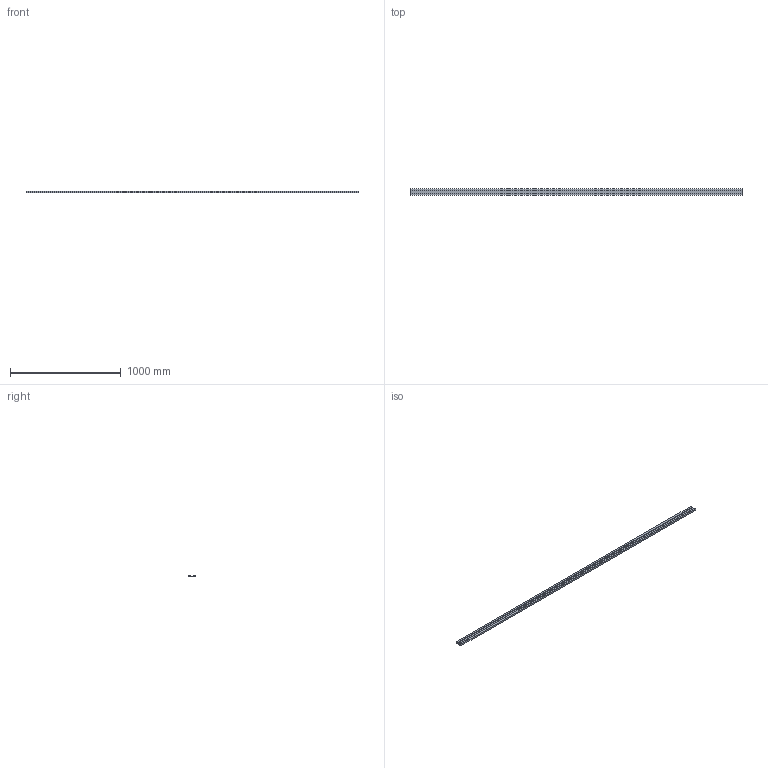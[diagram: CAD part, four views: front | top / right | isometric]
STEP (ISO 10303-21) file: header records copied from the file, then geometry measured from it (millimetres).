
FILE_DESCRIPTION (( 'STEP AP214' ), '1' );
FILE_NAME ('FABER - FD7 4A.step', '2017-04-06T07:45:50', ( '' ), ( '' ), 'SwSTEP 2.0', 'SolidWorks 2016', '' );
FILE_SCHEMA (( 'AUTOMOTIVE_DESIGN' ));
Length unit declared in the file: millimetre
Products named in the file (1): FABER - FD7 4A
Bounding box: 3000 x 60 x 15 mm (x, y, z)
Volume: 2018250 mm3; surface area: 562345.5 mm2
Topology: 1 solids, 1 shells, 14 faces, 36 edges, 24 vertices
Faces by surface type: plane 14
Entity records: 454 total; most frequent: CARTESIAN_POINT 75, ORIENTED_EDGE 72, DIRECTION 66, LINE 36, EDGE_CURVE 36, VECTOR 36, VERTEX_POINT 24, AXIS2_PLACEMENT_3D 15
